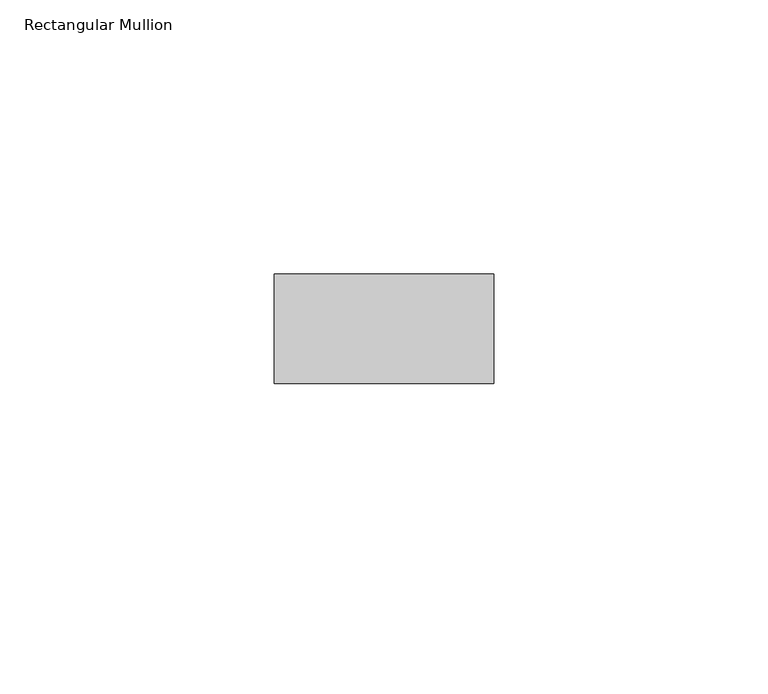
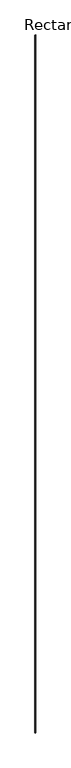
"""IFC4 building model written with IfcOpenShell, lengths in millimetres: member geometry, Rectangular Mullion : RIPA 4x2 cm."""

from ifc_helpers import new_model, si_unit, frame, origin, place, context, project, spatial, polyline, outline, extrude, source, transform, mapped, element, save


def rectangular_mullion_bbf62922(model_context):
    return source(origin(), model_context, "Body", "SweptSolid", [
        extrude(outline(polyline([(0.0, 0.0), (0.0, -20.0), (-40.0, -20.0), (-40.0, 0.0), (0.0, 0.0)])), frame((0.0, 0.0, -37485.0), z_axis=(0.0, 0.0, 1.0), x_axis=(1.0, 0.0, 0.0)), (0.0, 0.0, 1.0), 37485.0),
    ])


if __name__ == "__main__":
    model = new_model("IFC4")
    model_context = context("Model", 3, world=origin())
    ifc_project = project(units=[si_unit("LENGTHUNIT", "METRE", prefix="MILLI")], contexts=[model_context])
    site = spatial("IfcSite", under=ifc_project)
    building = spatial("IfcBuilding", under=site)
    placement = place(None, origin())
    rectangular_mullion_shape = rectangular_mullion_bbf62922(model_context)
    element("IfcMember", 1, ObjectType="Rectangular Mullion : RIPA 4x2 cm", at=placement, inside=building, context=model_context, shape_type="MappedRepresentation", body=[
        mapped(rectangular_mullion_shape, transform((0.0, 0.0, 0.0), x_axis=(1.0, 0.0, 0.0), y_axis=(0.0, 1.0, 0.0), z_axis=(0.0, 0.0, 1.0))),
    ])
    save(model, "model.ifc")
